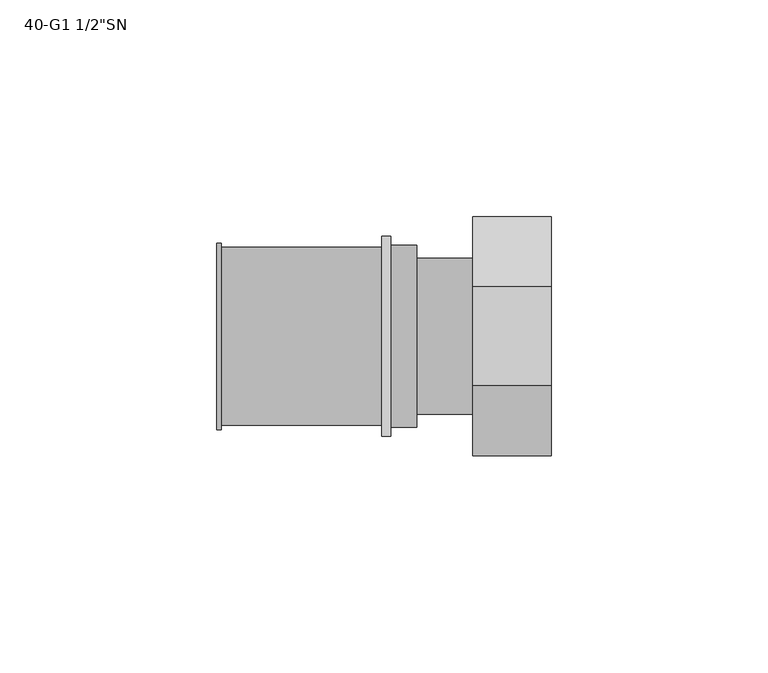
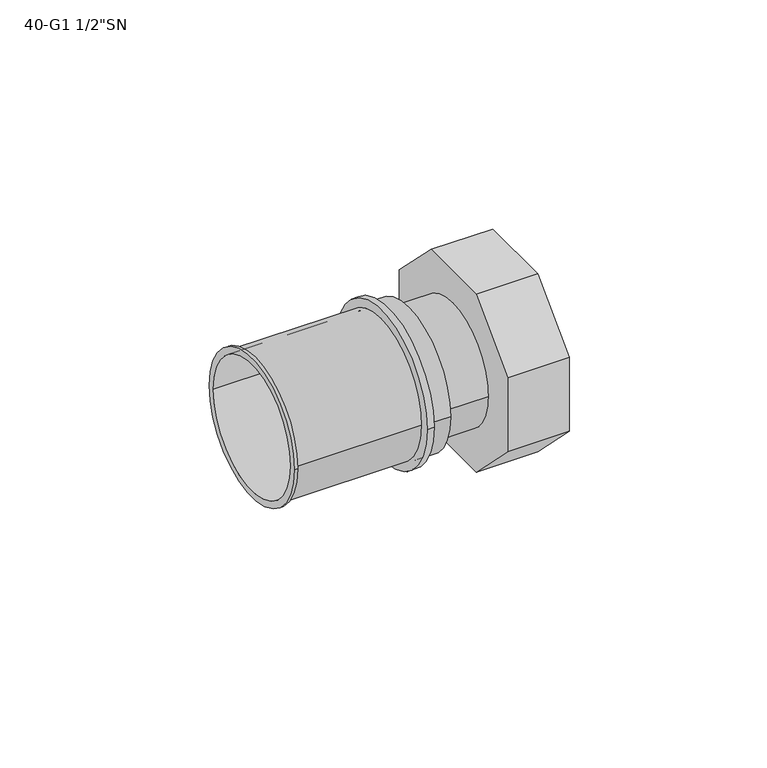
"""IFC4 building model written with IfcOpenShell, lengths in millimetres: pipe fitting geometry."""

from ifc_helpers import new_model, si_unit, point, frame, origin, origin_2d, place, context, project, spatial, polyline, circle_curve, trimmed, segment, composite_curve, outline, extrude, source, transform, mapped, element, save
from ifc_brep_helpers import plane_surface, cylinder_surface, revolved_surface, advanced_brep


def pipe_fitting_2b95b9ba(model_context):
    return source(origin(), model_context, "Body", "SolidModel", [
        extrude(outline(composite_curve([segment(trimmed(circle_curve(origin_2d(), 23.0), [point((-23.0, 0.0))], [point((23.0, 0.0))], False, "CARTESIAN"), True, "CONTINUOUS"), segment(trimmed(circle_curve(origin_2d(), 23.0), [point((23.0, 0.0))], [point((-23.0, 0.0))], False, "CARTESIAN"), True, "CONTINUOUS")], self_intersect=False), holes=[composite_curve([segment(trimmed(circle_curve(origin_2d(), 19.5), [point((19.5, 0.0))], [point((-19.5, 0.0))], True, "CARTESIAN"), True, "CONTINUOUS"), segment(trimmed(circle_curve(origin_2d(), 19.5), [point((-19.5, 0.0))], [point((19.5, 0.0))], True, "CARTESIAN"), True, "CONTINUOUS")], self_intersect=False)]), frame((-5.0, 0.0, 0.0), z_axis=(1.0, 0.0, 0.0), x_axis=(0.0, 1.0, 0.0)), (0.0, 0.0, 1.0), 2.0),
        advanced_brep(
        [(23.0, -21.0, 0.0), (23.0, 21.0, 0.0), (34.0, 21.0, 0.0), (34.0, -21.0, 0.0), (16.0, -27.5, 11.390873), (16.0, -11.390873, 27.5), (16.0, 11.390873, 27.5), (16.0, 27.5, 11.390873), (16.0, 27.5, -11.390873), (16.0, 11.390873, -27.5), (16.0, -11.390873, -27.5), (16.0, -27.5, -11.390873), (34.0, -27.5, 11.390873), (34.0, -27.5, -11.390873), (34.0, -11.390873, -27.5), (34.0, 11.390873, -27.5), (34.0, 27.5, -11.390873), (34.0, 27.5, 11.390873), (34.0, 11.390873, 27.5), (34.0, -11.390873, 27.5)],
        [
            (0, 1, circle_curve(frame((23.0, 0.0, 0.0), z_axis=(1.0, 0.0, 0.0), x_axis=(0.0, 1.0, 0.0)), 21.0)),
            (1, 0, circle_curve(frame((23.0, 0.0, 0.0), z_axis=(1.0, 0.0, 0.0), x_axis=(0.0, 1.0, 0.0)), 21.0)),
            (1, 2),
            (2, 3, circle_curve(frame((34.0, 0.0, 0.0), z_axis=(1.0, 0.0, 0.0), x_axis=(0.0, 1.0, 0.0)), 21.0)),
            (3, 0),
            (3, 2, circle_curve(frame((34.0, 0.0, 0.0), z_axis=(1.0, 0.0, 0.0), x_axis=(0.0, 1.0, 0.0)), 21.0)),
            (4, 5),
            (5, 6),
            (6, 7),
            (7, 8),
            (8, 9),
            (9, 10),
            (10, 11),
            (11, 4),
            (12, 13),
            (13, 14),
            (14, 15),
            (15, 16),
            (16, 17),
            (17, 18),
            (18, 19),
            (19, 12),
            (4, 12),
            (19, 5),
            (18, 6),
            (17, 7),
            (16, 8),
            (15, 9),
            (14, 10),
            (13, 11),
        ],
        [
            plane_surface(frame((23.0, 0.0, 0.0), z_axis=(1.0, 0.0, 0.0), x_axis=(0.0, 0.0, 1.0))),
            revolved_surface(polyline([(23.0, 21.0, 0.0), (34.0, 21.0, 0.0)]), (23.0, 0.0, 0.0), (-1.0, 0.0, 0.0)),
            plane_surface(frame((16.0, 0.0, 0.0), z_axis=(-1.0, 0.0, 0.0), x_axis=(0.0, 0.0, 1.0))),
            plane_surface(frame((34.0, 0.0, 0.0), z_axis=(1.0, 0.0, 0.0), x_axis=(0.0, 0.0, 1.0))),
            plane_surface(frame((16.0, -27.5, 11.390873), z_axis=(0.0, -0.7071067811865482, 0.7071067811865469), x_axis=(1.0, 0.0, 0.0))),
            plane_surface(frame((16.0, -11.390873, 27.5), z_axis=(0.0, 0.0, 1.0), x_axis=(1.0, 0.0, 0.0))),
            plane_surface(frame((16.0, 11.390873, 27.5), z_axis=(0.0, 0.7071067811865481, 0.7071067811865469), x_axis=(1.0, 0.0, 0.0))),
            plane_surface(frame((16.0, 27.5, 11.390873), z_axis=(0.0, 1.0, 0.0), x_axis=(1.0, 0.0, 0.0))),
            plane_surface(frame((16.0, 27.5, -11.390873), z_axis=(0.0, 0.7071067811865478, -0.7071067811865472), x_axis=(1.0, 0.0, 0.0))),
            plane_surface(frame((16.0, 11.390873, -27.5), z_axis=(0.0, 0.0, -1.0), x_axis=(1.0, 0.0, 0.0))),
            plane_surface(frame((16.0, -11.390873, -27.5), z_axis=(0.0, -0.707106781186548, -0.707106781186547), x_axis=(1.0, 0.0, 0.0))),
            plane_surface(frame((16.0, -27.5, -11.390873), z_axis=(0.0, -1.0, 0.0), x_axis=(1.0, 0.0, 0.0))),
        ],
        [
            (0, [[1, 2]]),
            (1, [[-2, 3, 4, 5]]),
            (1, [[-1, -5, 6, -3]]),
            (2, [[7, 8, 9, 10, 11, 12, 13, 14]]),
            (3, [[15, 16, 17, 18, 19, 20, 21, 22], [-4, -6]]),
            (4, [[-7, 23, -22, 24]]),
            (5, [[-8, -24, -21, 25]]),
            (6, [[-9, -25, -20, 26]]),
            (7, [[-10, -26, -19, 27]]),
            (8, [[-11, -27, -18, 28]]),
            (9, [[-12, -28, -17, 29]]),
            (10, [[-13, -29, -16, 30]]),
            (11, [[-14, -30, -15, -23]]),
        ],
    ),
        advanced_brep(
        [(-3.0, -21.0, 0.0), (-3.0, 21.0, 0.0), (3.0, -21.0, 0.0), (3.0, 21.0, 0.0), (3.0, -18.0, 0.0), (3.0, 18.0, 0.0), (16.0, -18.0, 0.0), (16.0, 18.0, 0.0)],
        [
            (0, 1, circle_curve(frame((-3.0, 0.0, 0.0), z_axis=(-1.0, 0.0, 0.0), x_axis=(0.0, 1.0, 0.0)), 21.0)),
            (1, 0, circle_curve(frame((-3.0, 0.0, 0.0), z_axis=(-1.0, 0.0, 0.0), x_axis=(0.0, 1.0, 0.0)), 21.0)),
            (2, 3, circle_curve(frame((3.0, 0.0, 0.0), z_axis=(1.0, 0.0, 0.0), x_axis=(0.0, 1.0, 0.0)), 21.0)),
            (3, 2, circle_curve(frame((3.0, 0.0, 0.0), z_axis=(1.0, 0.0, 0.0), x_axis=(0.0, 1.0, 0.0)), 21.0)),
            (4, 5, circle_curve(frame((3.0, 0.0, 0.0), z_axis=(-1.0, 0.0, 0.0), x_axis=(0.0, 1.0, 0.0)), 18.0)),
            (5, 4, circle_curve(frame((3.0, 0.0, 0.0), z_axis=(-1.0, 0.0, 0.0), x_axis=(0.0, 1.0, 0.0)), 18.0)),
            (1, 3),
            (2, 0),
            (6, 7, circle_curve(frame((16.0, 0.0, 0.0), z_axis=(1.0, 0.0, 0.0), x_axis=(0.0, 1.0, 0.0)), 18.0)),
            (7, 6, circle_curve(frame((16.0, 0.0, 0.0), z_axis=(1.0, 0.0, 0.0), x_axis=(0.0, 1.0, 0.0)), 18.0)),
            (7, 5),
            (4, 6),
        ],
        [
            plane_surface(frame((-3.0, 0.0, 0.0), z_axis=(-1.0, 0.0, 0.0), x_axis=(0.0, 0.0, 1.0))),
            plane_surface(frame((3.0, 0.0, 0.0), z_axis=(1.0, 0.0, 0.0), x_axis=(0.0, 0.0, 1.0))),
            cylinder_surface(frame((-3.0, 0.0, 0.0), z_axis=(-1.0, 0.0, 0.0), x_axis=(0.0, 1.0, 0.0)), 21.0),
            plane_surface(frame((16.0, 0.0, 0.0), z_axis=(1.0, 0.0, 0.0), x_axis=(0.0, 0.0, 1.0))),
            cylinder_surface(frame((3.0, 0.0, 0.0), z_axis=(-1.0, 0.0, 0.0), x_axis=(0.0, 1.0, 0.0)), 18.0),
        ],
        [
            (0, [[1, 2]]),
            (1, [[3, 4], [5, 6]]),
            (2, [[-2, 7, -3, 8]]),
            (2, [[-1, -8, -4, -7]]),
            (3, [[9, 10]]),
            (4, [[-10, 11, -5, 12]]),
            (4, [[-9, -12, -6, -11]]),
        ],
    ),
        advanced_brep(
        [(-43.0, -21.5, 0.0), (-43.0, 21.5, 0.0), (-43.0, -19.5, 0.0), (-43.0, 19.5, 0.0), (-5.0, -20.5, 0.0), (-5.0, 20.5, 0.0), (-5.0, -19.5, 0.0), (-5.0, 19.5, 0.0), (-42.0, 20.5, 0.0), (-42.0, -20.5, 0.0), (-42.0, -19.5, 0.0), (-42.0, 19.5, 0.0), (-42.0, -21.5, 0.0), (-42.0, 21.5, 0.0)],
        [
            (0, 1, circle_curve(frame((-43.0, 0.0, 0.0), z_axis=(-1.0, 0.0, 0.0), x_axis=(0.0, 1.0, 0.0)), 21.5)),
            (1, 0, circle_curve(frame((-43.0, 0.0, 0.0), z_axis=(-1.0, 0.0, 0.0), x_axis=(0.0, 1.0, 0.0)), 21.5)),
            (2, 3, circle_curve(frame((-43.0, 0.0, 0.0), z_axis=(1.0, 0.0, 0.0), x_axis=(0.0, 1.0, 0.0)), 19.5)),
            (3, 2, circle_curve(frame((-43.0, 0.0, 0.0), z_axis=(1.0, 0.0, 0.0), x_axis=(0.0, 1.0, 0.0)), 19.5)),
            (4, 5, circle_curve(frame((-5.0, 0.0, 0.0), z_axis=(1.0, 0.0, 0.0), x_axis=(0.0, 1.0, 0.0)), 20.5)),
            (5, 4, circle_curve(frame((-5.0, 0.0, 0.0), z_axis=(1.0, 0.0, 0.0), x_axis=(0.0, 1.0, 0.0)), 20.5)),
            (6, 7, circle_curve(frame((-5.0, 0.0, 0.0), z_axis=(-1.0, 0.0, 0.0), x_axis=(0.0, 1.0, 0.0)), 19.5)),
            (7, 6, circle_curve(frame((-5.0, 0.0, 0.0), z_axis=(-1.0, 0.0, 0.0), x_axis=(0.0, 1.0, 0.0)), 19.5)),
            (5, 8),
            (8, 9, circle_curve(frame((-42.0, 0.0, 0.0), z_axis=(1.0, 0.0, 0.0), x_axis=(0.0, 1.0, 0.0)), 20.5)),
            (9, 4),
            (9, 8, circle_curve(frame((-42.0, 0.0, 0.0), z_axis=(1.0, 0.0, 0.0), x_axis=(0.0, 1.0, 0.0)), 20.5)),
            (2, 10),
            (10, 6),
            (7, 11),
            (11, 3),
            (12, 13, circle_curve(frame((-42.0, 0.0, 0.0), z_axis=(1.0, 0.0, 0.0), x_axis=(0.0, 1.0, 0.0)), 21.5)),
            (13, 12, circle_curve(frame((-42.0, 0.0, 0.0), z_axis=(1.0, 0.0, 0.0), x_axis=(0.0, 1.0, 0.0)), 21.5)),
            (0, 12),
            (13, 1),
        ],
        [
            plane_surface(frame((-43.0, 0.0, 0.0), z_axis=(-1.0, 0.0, 0.0), x_axis=(0.0, 0.0, 1.0))),
            plane_surface(frame((-5.0, 0.0, 0.0), z_axis=(1.0, 0.0, 0.0), x_axis=(0.0, 0.0, 1.0))),
            cylinder_surface(frame((-43.0, 0.0, 0.0), z_axis=(-1.0, 0.0, 0.0), x_axis=(0.0, 1.0, 0.0)), 20.5),
            revolved_surface(polyline([(-5.0, 19.5, 0.0), (-43.0, 19.5, 0.0)]), (-43.0, 0.0, 0.0), (1.0, 0.0, 0.0)),
            plane_surface(frame((-42.0, 0.0, 0.0), z_axis=(1.0, 0.0, 0.0), x_axis=(0.0, 0.0, 1.0))),
            cylinder_surface(frame((-43.0, 0.0, 0.0), z_axis=(-1.0, 0.0, 0.0), x_axis=(0.0, 1.0, 0.0)), 21.5),
        ],
        [
            (0, [[1, 2], [3, 4]]),
            (1, [[5, 6], [7, 8]]),
            (2, [[-6, 9, 10, 11]]),
            (2, [[-5, -11, 12, -9]]),
            (3, [[-3, 13, 14, -8, 15, 16]]),
            (3, [[-4, -16, -15, -7, -14, -13]]),
            (4, [[17, 18], [-10, -12]]),
            (5, [[-1, 19, -18, 20]]),
            (5, [[-2, -20, -17, -19]]),
        ],
    ),
    ])


if __name__ == "__main__":
    model = new_model("IFC4")
    model_context = context("Model", 3, world=origin())
    ifc_project = project(units=[si_unit("LENGTHUNIT", "METRE", prefix="MILLI")], contexts=[model_context])
    site = spatial("IfcSite", under=ifc_project)
    building = spatial("IfcBuilding", under=site)
    placement = place(None, origin())
    pipe_fitting_shape = pipe_fitting_2b95b9ba(model_context)
    element("IfcPipeFitting", 1, ObjectType="SuperPipe_AdapterSN_MAX_G : 40-G1 1/2\"SN", at=placement, inside=building, context=model_context, shape_type="MappedRepresentation", body=[
        mapped(pipe_fitting_shape, transform((0.0, 0.0, 0.0), x_axis=(1.0, 0.0, 0.0), y_axis=(0.0, 1.0, 0.0), z_axis=(0.0, 0.0, 1.0))),
    ])
    save(model, "model.ifc")
